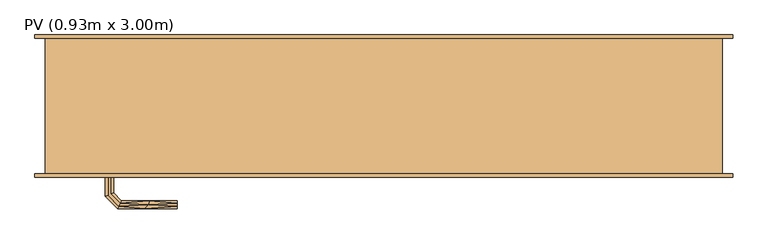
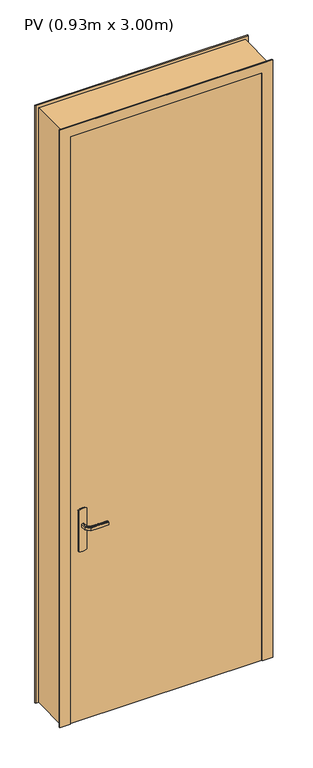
"""IFC4 building model written with IfcOpenShell, lengths in millimetres: door geometry, PV (0.93m x 3.00m)."""

from ifc_helpers import new_model, si_unit, frame, origin, origin_with_axes, place, context, project, spatial, polyline, outline, extrude, faceted_brep, source, transform, mapped, element, save


def pv_0_93m_x_3_00m_77650ff3(model_context):
    return source(origin(), model_context, "Body", "SolidModel", [
        faceted_brep([(92.9747013, 45.0, 1007.7804408), (89.0, 45.0, 1007.0), (89.0, 45.0, 993.0), (92.9747013, 45.0, 992.2195592), (97.0252987, 45.0, 992.2195592), (101.0, 45.0, 993.0), (101.0, 45.0, 1007.0), (97.0252987, 45.0, 1007.7804408), (101.0, 67.4852045, 993.0), (101.0, 67.4852045, 1007.0), (97.0252987, 69.1315797, 1007.7804408), (110.8389062, 82.9451872, 1007.7804408), (109.1610938, 86.9957845, 1007.7804408), (92.9747013, 70.8093921, 1007.7804408), (89.0, 72.4557673, 1007.0), (89.0, 72.4557673, 993.0), (92.9747013, 70.8093921, 992.2195592), (109.1610938, 86.9957845, 992.2195592), (110.8389062, 82.9451872, 992.2195592), (97.0252987, 69.1315797, 992.2195592), (112.4852814, 78.9704859, 993.0), (112.4852814, 78.9704859, 1007.0), (107.5147186, 90.9704859, 1007.0), (107.5147186, 90.9704859, 993.0), (195.0457837, 78.9704859, 993.0), (195.0457837, 82.9451872, 992.2195592), (195.0457837, 86.9957845, 992.2195592), (195.0457837, 90.9704859, 993.0), (195.0457837, 90.9704859, 1007.0), (195.0457837, 86.9957845, 1007.7804408), (195.0457837, 82.9451872, 1007.7804408), (195.0457837, 78.9704859, 1007.0), (153.7655206, 78.9704859, 993.0), (153.7655325, 78.9704859, 1007.0), (152.9423449, 84.9704859, 1007.8786868), (147.4452058, 90.9704859, 1007.0), (147.4452043, 90.9704859, 993.0), (152.9423451, 84.9704858, 992.1213132)], [[[0, 1, 2, 3, 4, 5, 6, 7]], [[6, 5, 8, 9]], [[9, 10, 7, 6]], [[10, 11, 12, 13, 0, 7]], [[13, 14, 1, 0]], [[2, 1, 14, 15]], [[15, 16, 3, 2]], [[16, 17, 18, 19, 4, 3]], [[19, 8, 5, 4]], [[9, 8, 20, 21]], [[21, 11, 10, 9]], [[12, 22, 14, 13]], [[15, 14, 22, 23]], [[23, 17, 16, 15]], [[18, 20, 8, 19]], [[24, 25, 26, 27, 28, 29, 30, 31]], [[21, 20, 32, 24, 31, 33]], [[33, 30, 34]], [[35, 34, 29]], [[21, 33, 11]], [[33, 31, 30]], [[28, 35, 29]], [[22, 12, 35]], [[35, 12, 34]], [[12, 11, 34]], [[11, 33, 34]], [[29, 34, 30]], [[22, 35, 28, 27, 36, 23]], [[36, 26, 37]], [[27, 26, 36]], [[17, 23, 36]], [[37, 32, 18]], [[20, 18, 32]], [[32, 25, 24]], [[26, 25, 37]], [[25, 32, 37]], [[17, 36, 37]], [[17, 37, 18]]]),
        extrude(outline(polyline([(35.0, 40.0), (965.0, 40.0), (965.0, 0.0), (35.0, 0.0), (35.0, 40.0)])), origin_with_axes(), (0.0, 0.0, 1.0), 3010.0),
        extrude(outline(polyline([(866.0039831, 105.3527618), (870.0, 115.0), (1080.0, 115.0), (1083.9960169, 105.3527618), (1085.3589838, 95.0), (1083.9960169, 84.6472382), (1080.0, 75.0), (870.0, 75.0), (866.0039831, 84.6472382), (864.6410162, 95.0), (866.0039831, 105.3527618)])), frame((0.0, -5.0, 0.0), z_axis=(0.0, 1.0, 0.0), x_axis=(0.0, 0.0, 1.0)), (0.0, 0.0, 1.0), 5.0),
        faceted_brep([(0.0, 200.0, 0.0), (-15.0, 200.0, 0.0), (-15.0, 205.0, 0.0), (50.0, 205.0, 0.0), (50.0, 40.0, 0.0), (35.0, 40.0, 0.0), (35.0, -5.0, 0.0), (-15.0, -5.0, 0.0), (-15.0, 0.0, 0.0), (0.0, 0.0, 0.0), (0.0, 200.0, 3045.0), (1000.0, 200.0, 3045.0), (1000.0, 200.0, 0.0), (1015.0, 200.0, 0.0), (1015.0, 200.0, 3060.0), (-15.0, 200.0, 3060.0), (-15.0, 205.0, 3060.0), (1015.0, 205.0, 3060.0), (1015.0, 205.0, 0.0), (950.0, 205.0, 0.0), (950.0, 205.0, 2995.0), (50.0, 205.0, 2995.0), (50.0, 40.0, 2995.0), (950.0, 40.0, 2995.0), (950.0, 40.0, 0.0), (965.0, 40.0, 0.0), (965.0, 40.0, 3010.0), (35.0, 40.0, 3010.0), (35.0, -5.0, 3010.0), (965.0, -5.0, 3010.0), (965.0, -5.0, 0.0), (1015.0, -5.0, 0.0), (1015.0, -5.0, 3060.0), (-15.0, -5.0, 3060.0), (-15.0, 0.0, 3060.0), (1015.0, 0.0, 3060.0), (1015.0, 0.0, 0.0), (1000.0, 0.0, 0.0), (1000.0, 0.0, 3045.0), (0.0, 0.0, 3045.0)], [[[0, 1, 2, 3, 4, 5, 6, 7, 8, 9]], [[1, 0, 10, 11, 12, 13, 14, 15]], [[2, 1, 15, 16]], [[3, 2, 16, 17, 18, 19, 20, 21]], [[3, 21, 22, 4]], [[5, 4, 22, 23, 24, 25, 26, 27]], [[5, 27, 28, 6]], [[7, 6, 28, 29, 30, 31, 32, 33]], [[8, 7, 33, 34]], [[9, 8, 34, 35, 36, 37, 38, 39]], [[0, 9, 39, 10]], [[11, 38, 37, 12]], [[12, 37, 36, 31, 30, 25, 24, 19, 18, 13]], [[17, 14, 13, 18]], [[23, 20, 19, 24]], [[29, 26, 25, 30]], [[35, 32, 31, 36]], [[10, 39, 38, 11]], [[16, 15, 14, 17]], [[22, 21, 20, 23]], [[28, 27, 26, 29]], [[34, 33, 32, 35]]]),
        extrude(outline(polyline([(866.0039831, 105.3527618), (870.0, 115.0), (1080.0, 115.0), (1083.9960169, 105.3527618), (1085.3589838, 95.0), (1083.9960169, 84.6472382), (1080.0, 75.0), (870.0, 75.0), (866.0039831, 84.6472382), (864.6410162, 95.0), (866.0039831, 105.3527618)])), frame((0.0, 40.0, 0.0), z_axis=(0.0, 1.0, 0.0), x_axis=(0.0, 0.0, 1.0)), (0.0, 0.0, 1.0), 5.0),
        faceted_brep([(92.9747013, -5.0, 1007.7804408), (97.0252987, -5.0, 1007.7804408), (101.0, -5.0, 1007.0), (101.0, -5.0, 993.0), (97.0252987, -5.0, 992.2195592), (92.9747013, -5.0, 992.2195592), (89.0, -5.0, 993.0), (89.0, -5.0, 1007.0), (89.0, -32.6509507, 1007.0), (92.9747013, -31.0045755, 1007.7804408), (109.0235852, -47.0534593, 1007.7804408), (110.7013975, -43.002862, 1007.7804408), (97.0252987, -29.3267632, 1007.7804408), (101.0, -27.680388, 1007.0), (101.0, -27.680388, 993.0), (97.0252987, -29.3267632, 992.2195592), (110.7013975, -43.002862, 992.2195592), (109.0235852, -47.0534593, 992.2195592), (92.9747013, -31.0045755, 992.2195592), (89.0, -32.6509507, 993.0), (107.37721, -51.0281607, 1007.0), (112.3477727, -39.0281607, 1007.0), (112.3477727, -39.0281607, 993.0), (107.37721, -51.0281607, 993.0), (195.0186406, -51.0281607, 993.0), (195.0186406, -47.0534593, 992.2195592), (195.0186406, -43.002862, 992.2195592), (195.0186406, -39.0281607, 993.0), (195.0186406, -39.0281607, 1007.0), (195.0186406, -43.002862, 1007.7804408), (195.0186406, -47.0534593, 1007.7804408), (195.0186406, -51.0281607, 1007.0), (147.3076972, -51.0281607, 1007.0), (152.8600191, -45.0281607, 1007.8786868), (153.6832067, -39.0281607, 1007.0), (153.6832067, -39.0281607, 993.0), (152.8600189, -45.0281608, 992.1213132), (147.3077002, -51.0281607, 993.0)], [[[0, 1, 2, 3, 4, 5, 6, 7]], [[8, 9, 0, 7]], [[9, 10, 11, 12, 1, 0]], [[12, 13, 2, 1]], [[3, 2, 13, 14]], [[14, 15, 4, 3]], [[15, 16, 17, 18, 5, 4]], [[18, 19, 6, 5]], [[7, 6, 19, 8]], [[20, 10, 9, 8]], [[11, 21, 13, 12]], [[14, 13, 21, 22]], [[22, 16, 15, 14]], [[17, 23, 19, 18]], [[8, 19, 23, 20]], [[24, 25, 26, 27, 28, 29, 30, 31]], [[32, 30, 33]], [[31, 30, 32]], [[10, 20, 32]], [[33, 34, 11]], [[21, 11, 34]], [[34, 29, 28]], [[30, 29, 33]], [[29, 34, 33]], [[10, 32, 33]], [[10, 33, 11]], [[22, 21, 34, 28, 27, 35]], [[35, 26, 36]], [[37, 36, 25]], [[22, 35, 16]], [[35, 27, 26]], [[24, 37, 25]], [[23, 17, 37]], [[37, 17, 36]], [[17, 16, 36]], [[16, 35, 36]], [[25, 36, 26]], [[20, 23, 37, 24, 31, 32]]]),
    ])


if __name__ == "__main__":
    model = new_model("IFC4")
    model_context = context("Model", 3, world=origin())
    ifc_project = project(units=[si_unit("LENGTHUNIT", "METRE", prefix="MILLI")], contexts=[model_context])
    site = spatial("IfcSite", under=ifc_project)
    building = spatial("IfcBuilding", under=site)
    placement = place(None, origin())
    pv_0_93m_x_3_00m_shape = pv_0_93m_x_3_00m_77650ff3(model_context)
    element("IfcDoor", 1, ObjectType="PV (0.93m x 3.00m)", at=placement, inside=building, context=model_context, shape_type="MappedRepresentation", body=[
        mapped(pv_0_93m_x_3_00m_shape, transform((0.0, 0.0, 0.0), x_axis=(1.0, 0.0, 0.0), y_axis=(0.0, 1.0, 0.0), z_axis=(0.0, 0.0, 1.0))),
    ])
    save(model, "model.ifc")
